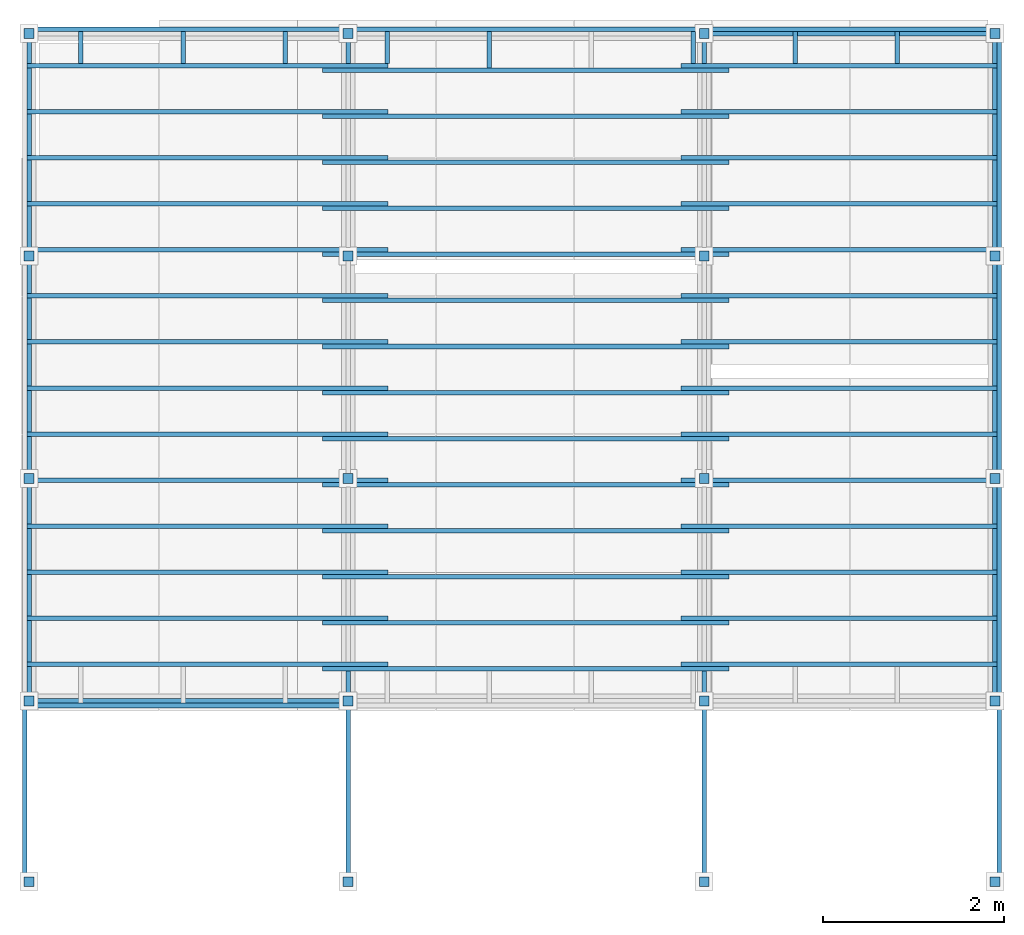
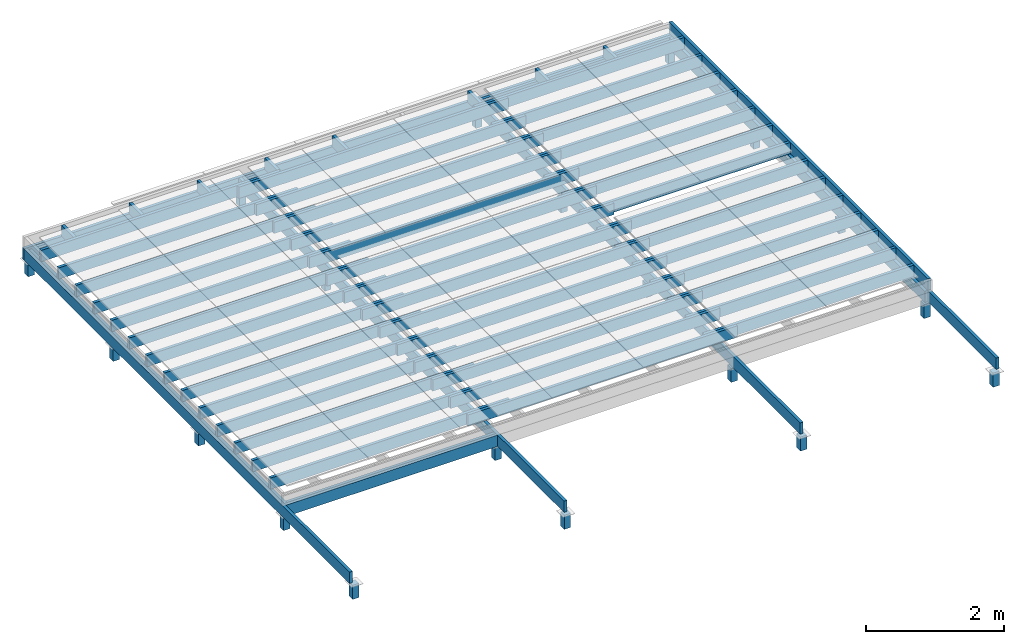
# One storey, part 1 of 5: 61 beams, 20 columns, 20 elements without a shape of their own.
"""IFC4 building model written with IfcOpenShell, lengths in millimetres."""

from ifc_helpers import new_model, si_unit, derived_unit, frame, origin_with_axes, place, context, subcontext, project, spatial, line, indexed_curve, outline, extrude, polygons, source, transform, mapped, material, type_object, element, aggregate, save


model = new_model("IFC4")

# Units and contexts
model_context = context("Model", 3, precision=1e-06, world=origin_with_axes())
body_context = subcontext(model_context, "Body", "Model", "MODEL_VIEW")
ifc_project = project(units=[si_unit("LENGTHUNIT", "METRE", prefix="MILLI"), si_unit("AREAUNIT", "SQUARE_METRE"), si_unit("VOLUMEUNIT", "CUBIC_METRE"), si_unit("MASSUNIT", "GRAM", prefix="KILO"), si_unit("ELECTRICVOLTAGEUNIT", "VOLT", prefix="KILO"), si_unit("THERMODYNAMICTEMPERATUREUNIT", "DEGREE_CELSIUS"), si_unit("PRESSUREUNIT", "PASCAL", prefix="MEGA"), si_unit("PLANEANGLEUNIT", "RADIAN"), derived_unit("THERMALCONDUCTANCEUNIT", [(si_unit("POWERUNIT", "WATT"), 1), (si_unit("LENGTHUNIT", "METRE"), -1), (si_unit("THERMODYNAMICTEMPERATUREUNIT", "KELVIN"), -1)]), derived_unit("MASSDENSITYUNIT", [(si_unit("MASSUNIT", "GRAM", prefix="KILO"), 1), (si_unit("VOLUMEUNIT", "CUBIC_METRE"), -1)])], contexts=[model_context])

# Site, building, storey
site_placement = place(None, origin_with_axes())
site = spatial("IfcSite", under=ifc_project, at=site_placement, CompositionType="ELEMENT")
building_placement = place(site_placement, origin_with_axes())
building = spatial("IfcBuilding", under=site, at=building_placement, CompositionType="ELEMENT")
storey_placement = place(building_placement, origin_with_axes())
storey = spatial("IfcBuildingStorey", under=building, at=storey_placement, Name="Ниже 0.00", CompositionType="ELEMENT", Elevation=0.0)

# Assembly, column
assembly_1_placement = place(storey_placement, frame((75.00000000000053, 75.00000000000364, -400.0), z_axis=(0.0, 0.0, 1.0), x_axis=(1.0, 0.0, 0.0)))
assembly_1 = element("IfcElementAssembly", 1, at=assembly_1_placement, inside=storey, Name="Сборка - Свая винтовая 107", PredefinedType="NOTDEFINED")
ifc_material_1 = material(Name="Сталь")
column_type = type_object("IfcColumnType", Name="Круглая (усл) 107", PredefinedType="COLUMN")
shared_shape_1 = source(origin_with_axes(), body_context, "Body", "SweptSolid", [
    extrude(outline(indexed_curve([(-53.5, -53.5), (53.5, -53.5), (53.5, 53.5), (-53.5, 53.5)], segments=[line(1, 2), line(2, 3), line(3, 4), line(4, 1)])), origin_with_axes(), (0.0, 0.0, 1.0), 250.0),
])
column_1_placement = place(assembly_1_placement, frame((0.0, 0.0, -255.0), z_axis=(0.0, 0.0, 1.0), x_axis=(1.0, 0.0, 0.0)))
column_1 = element("IfcColumn", 2, at=column_1_placement, type_object=column_type, material=ifc_material_1, Name="Колонна - Круглая (усл) 107", context=body_context, shape_type="MappedRepresentation", body=[
    mapped(shared_shape_1, transform((0.0, 0.0, 0.0), x_axis=(1.0, 0.0, 0.0), y_axis=(0.0, 1.0, 0.0), z_axis=(0.0, 0.0, 1.0), scale=1.0)),
])
aggregate(assembly_1, [column_1])

assembly_2_placement = place(storey_placement, frame((75.00000000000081, 7465.0, -400.0), z_axis=(0.0, 0.0, 1.0), x_axis=(1.0, 0.0, 0.0)))
assembly_2 = element("IfcElementAssembly", 3, at=assembly_2_placement, inside=storey, Name="Сборка - Свая винтовая 107", PredefinedType="NOTDEFINED")
column_2_placement = place(assembly_2_placement, frame((0.0, 0.0, -255.0), z_axis=(0.0, 0.0, 1.0), x_axis=(1.0, 0.0, 0.0)))
column_2 = element("IfcColumn", 4, at=column_2_placement, type_object=column_type, material=ifc_material_1, Name="Колонна - Круглая (усл) 107", context=body_context, shape_type="MappedRepresentation", body=[
    mapped(shared_shape_1, transform((0.0, 0.0, 0.0), x_axis=(1.0, 0.0, 0.0), y_axis=(0.0, 1.0, 0.0), z_axis=(0.0, 0.0, 1.0), scale=1.0)),
])
aggregate(assembly_2, [column_2])

assembly_3_placement = place(storey_placement, frame((10770.000000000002, 75.00000000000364, -400.0), z_axis=(0.0, 0.0, 1.0), x_axis=(1.0, 0.0, 0.0)))
assembly_3 = element("IfcElementAssembly", 5, at=assembly_3_placement, inside=storey, Name="Сборка - Свая винтовая 107", PredefinedType="NOTDEFINED")
column_3_placement = place(assembly_3_placement, frame((0.0, 0.0, -255.0), z_axis=(0.0, 0.0, 1.0), x_axis=(1.0, 0.0, 0.0)))
column_3 = element("IfcColumn", 6, at=column_3_placement, type_object=column_type, material=ifc_material_1, Name="Колонна - Круглая (усл) 107", context=body_context, shape_type="MappedRepresentation", body=[
    mapped(shared_shape_1, transform((0.0, 0.0, 0.0), x_axis=(1.0, 0.0, 0.0), y_axis=(0.0, 1.0, 0.0), z_axis=(0.0, 0.0, 1.0), scale=1.0)),
])
aggregate(assembly_3, [column_3])

assembly_4_placement = place(storey_placement, frame((10770.000000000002, 7465.000000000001, -400.0), z_axis=(0.0, 0.0, 1.0), x_axis=(1.0, 0.0, 0.0)))
assembly_4 = element("IfcElementAssembly", 7, at=assembly_4_placement, inside=storey, Name="Сборка - Свая винтовая 107", PredefinedType="NOTDEFINED")
column_4_placement = place(assembly_4_placement, frame((0.0, 0.0, -255.0), z_axis=(0.0, 0.0, 1.0), x_axis=(1.0, 0.0, 0.0)))
column_4 = element("IfcColumn", 8, at=column_4_placement, type_object=column_type, material=ifc_material_1, Name="Колонна - Круглая (усл) 107", context=body_context, shape_type="MappedRepresentation", body=[
    mapped(shared_shape_1, transform((0.0, 0.0, 0.0), x_axis=(1.0, 0.0, 0.0), y_axis=(0.0, 1.0, 0.0), z_axis=(0.0, 0.0, 1.0), scale=1.0)),
])
aggregate(assembly_4, [column_4])

assembly_5_placement = place(storey_placement, frame((75.00000000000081, 5002.0, -400.0), z_axis=(0.0, 0.0, 1.0), x_axis=(1.0, 0.0, 0.0)))
assembly_5 = element("IfcElementAssembly", 9, at=assembly_5_placement, inside=storey, Name="Сборка - Свая винтовая 107", PredefinedType="NOTDEFINED")
column_5_placement = place(assembly_5_placement, frame((0.0, 0.0, -255.0), z_axis=(0.0, 0.0, 1.0), x_axis=(1.0, 0.0, 0.0)))
column_5 = element("IfcColumn", 10, at=column_5_placement, type_object=column_type, material=ifc_material_1, Name="Колонна - Круглая (усл) 107", context=body_context, shape_type="MappedRepresentation", body=[
    mapped(shared_shape_1, transform((0.0, 0.0, 0.0), x_axis=(1.0, 0.0, 0.0), y_axis=(0.0, 1.0, 0.0), z_axis=(0.0, 0.0, 1.0), scale=1.0)),
])
aggregate(assembly_5, [column_5])

assembly_6_placement = place(storey_placement, frame((75.00000000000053, 2538.0000000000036, -400.0), z_axis=(0.0, 0.0, 1.0), x_axis=(1.0, 0.0, 0.0)))
assembly_6 = element("IfcElementAssembly", 11, at=assembly_6_placement, inside=storey, Name="Сборка - Свая винтовая 107", PredefinedType="NOTDEFINED")
column_6_placement = place(assembly_6_placement, frame((0.0, 0.0, -255.0), z_axis=(0.0, 0.0, 1.0), x_axis=(1.0, 0.0, 0.0)))
column_6 = element("IfcColumn", 12, at=column_6_placement, type_object=column_type, material=ifc_material_1, Name="Колонна - Круглая (усл) 107", context=body_context, shape_type="MappedRepresentation", body=[
    mapped(shared_shape_1, transform((0.0, 0.0, 0.0), x_axis=(1.0, 0.0, 0.0), y_axis=(0.0, 1.0, 0.0), z_axis=(0.0, 0.0, 1.0), scale=1.0)),
])
aggregate(assembly_6, [column_6])

assembly_7_placement = place(storey_placement, frame((3607.5, 75.0000000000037, -400.0), z_axis=(0.0, 0.0, 1.0), x_axis=(1.0, 0.0, 0.0)))
assembly_7 = element("IfcElementAssembly", 13, at=assembly_7_placement, inside=storey, Name="Сборка - Свая винтовая 107", PredefinedType="NOTDEFINED")
column_7_placement = place(assembly_7_placement, frame((0.0, 0.0, -255.0), z_axis=(0.0, 0.0, 1.0), x_axis=(1.0, 0.0, 0.0)))
column_7 = element("IfcColumn", 14, at=column_7_placement, type_object=column_type, material=ifc_material_1, Name="Колонна - Круглая (усл) 107", context=body_context, shape_type="MappedRepresentation", body=[
    mapped(shared_shape_1, transform((0.0, 0.0, 0.0), x_axis=(1.0, 0.0, 0.0), y_axis=(0.0, 1.0, 0.0), z_axis=(0.0, 0.0, 1.0), scale=1.0)),
])
aggregate(assembly_7, [column_7])

assembly_8_placement = place(storey_placement, frame((3607.500000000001, 7465.000000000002, -400.0), z_axis=(0.0, 0.0, 1.0), x_axis=(1.0, 0.0, 0.0)))
assembly_8 = element("IfcElementAssembly", 15, at=assembly_8_placement, inside=storey, Name="Сборка - Свая винтовая 107", PredefinedType="NOTDEFINED")
column_8_placement = place(assembly_8_placement, frame((0.0, 0.0, -255.0), z_axis=(0.0, 0.0, 1.0), x_axis=(1.0, 0.0, 0.0)))
column_8 = element("IfcColumn", 16, at=column_8_placement, type_object=column_type, material=ifc_material_1, Name="Колонна - Круглая (усл) 107", context=body_context, shape_type="MappedRepresentation", body=[
    mapped(shared_shape_1, transform((0.0, 0.0, 0.0), x_axis=(1.0, 0.0, 0.0), y_axis=(0.0, 1.0, 0.0), z_axis=(0.0, 0.0, 1.0), scale=1.0)),
])
aggregate(assembly_8, [column_8])

assembly_9_placement = place(storey_placement, frame((3607.500000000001, 5002.000000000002, -400.0), z_axis=(0.0, 0.0, 1.0), x_axis=(1.0, 0.0, 0.0)))
assembly_9 = element("IfcElementAssembly", 17, at=assembly_9_placement, inside=storey, Name="Сборка - Свая винтовая 107", PredefinedType="NOTDEFINED")
column_9_placement = place(assembly_9_placement, frame((0.0, 0.0, -255.0), z_axis=(0.0, 0.0, 1.0), x_axis=(1.0, 0.0, 0.0)))
column_9 = element("IfcColumn", 18, at=column_9_placement, type_object=column_type, material=ifc_material_1, Name="Колонна - Круглая (усл) 107", context=body_context, shape_type="MappedRepresentation", body=[
    mapped(shared_shape_1, transform((0.0, 0.0, 0.0), x_axis=(1.0, 0.0, 0.0), y_axis=(0.0, 1.0, 0.0), z_axis=(0.0, 0.0, 1.0), scale=1.0)),
])
aggregate(assembly_9, [column_9])

assembly_10_placement = place(storey_placement, frame((3607.5, 2538.000000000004, -400.0), z_axis=(0.0, 0.0, 1.0), x_axis=(1.0, 0.0, 0.0)))
assembly_10 = element("IfcElementAssembly", 19, at=assembly_10_placement, inside=storey, Name="Сборка - Свая винтовая 107", PredefinedType="NOTDEFINED")
column_10_placement = place(assembly_10_placement, frame((0.0, 0.0, -255.0), z_axis=(0.0, 0.0, 1.0), x_axis=(1.0, 0.0, 0.0)))
column_10 = element("IfcColumn", 20, at=column_10_placement, type_object=column_type, material=ifc_material_1, Name="Колонна - Круглая (усл) 107", context=body_context, shape_type="MappedRepresentation", body=[
    mapped(shared_shape_1, transform((0.0, 0.0, 0.0), x_axis=(1.0, 0.0, 0.0), y_axis=(0.0, 1.0, 0.0), z_axis=(0.0, 0.0, 1.0), scale=1.0)),
])
aggregate(assembly_10, [column_10])

assembly_11_placement = place(storey_placement, frame((7550.0000000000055, 75.0000000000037, -400.0), z_axis=(0.0, 0.0, 1.0), x_axis=(1.0, 0.0, 0.0)))
assembly_11 = element("IfcElementAssembly", 21, at=assembly_11_placement, inside=storey, Name="Сборка - Свая винтовая 107", PredefinedType="NOTDEFINED")
column_11_placement = place(assembly_11_placement, frame((0.0, 0.0, -255.0), z_axis=(0.0, 0.0, 1.0), x_axis=(1.0, 0.0, 0.0)))
column_11 = element("IfcColumn", 22, at=column_11_placement, type_object=column_type, material=ifc_material_1, Name="Колонна - Круглая (усл) 107", context=body_context, shape_type="MappedRepresentation", body=[
    mapped(shared_shape_1, transform((0.0, 0.0, 0.0), x_axis=(1.0, 0.0, 0.0), y_axis=(0.0, 1.0, 0.0), z_axis=(0.0, 0.0, 1.0), scale=1.0)),
])
aggregate(assembly_11, [column_11])

assembly_12_placement = place(storey_placement, frame((7550.000000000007, 7465.0, -400.0), z_axis=(0.0, 0.0, 1.0), x_axis=(1.0, 0.0, 0.0)))
assembly_12 = element("IfcElementAssembly", 23, at=assembly_12_placement, inside=storey, Name="Сборка - Свая винтовая 107", PredefinedType="NOTDEFINED")
column_12_placement = place(assembly_12_placement, frame((0.0, 0.0, -255.0), z_axis=(0.0, 0.0, 1.0), x_axis=(1.0, 0.0, 0.0)))
column_12 = element("IfcColumn", 24, at=column_12_placement, type_object=column_type, material=ifc_material_1, Name="Колонна - Круглая (усл) 107", context=body_context, shape_type="MappedRepresentation", body=[
    mapped(shared_shape_1, transform((0.0, 0.0, 0.0), x_axis=(1.0, 0.0, 0.0), y_axis=(0.0, 1.0, 0.0), z_axis=(0.0, 0.0, 1.0), scale=1.0)),
])
aggregate(assembly_12, [column_12])

assembly_13_placement = place(storey_placement, frame((7550.000000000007, 5002.0, -400.0), z_axis=(0.0, 0.0, 1.0), x_axis=(1.0, 0.0, 0.0)))
assembly_13 = element("IfcElementAssembly", 25, at=assembly_13_placement, inside=storey, Name="Сборка - Свая винтовая 107", PredefinedType="NOTDEFINED")
column_13_placement = place(assembly_13_placement, frame((0.0, 0.0, -255.0), z_axis=(0.0, 0.0, 1.0), x_axis=(1.0, 0.0, 0.0)))
column_13 = element("IfcColumn", 26, at=column_13_placement, type_object=column_type, material=ifc_material_1, Name="Колонна - Круглая (усл) 107", context=body_context, shape_type="MappedRepresentation", body=[
    mapped(shared_shape_1, transform((0.0, 0.0, 0.0), x_axis=(1.0, 0.0, 0.0), y_axis=(0.0, 1.0, 0.0), z_axis=(0.0, 0.0, 1.0), scale=1.0)),
])
aggregate(assembly_13, [column_13])

assembly_14_placement = place(storey_placement, frame((7550.0000000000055, 2538.0000000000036, -400.0), z_axis=(0.0, 0.0, 1.0), x_axis=(1.0, 0.0, 0.0)))
assembly_14 = element("IfcElementAssembly", 27, at=assembly_14_placement, inside=storey, Name="Сборка - Свая винтовая 107", PredefinedType="NOTDEFINED")
column_14_placement = place(assembly_14_placement, frame((0.0, 0.0, -255.0), z_axis=(0.0, 0.0, 1.0), x_axis=(1.0, 0.0, 0.0)))
column_14 = element("IfcColumn", 28, at=column_14_placement, type_object=column_type, material=ifc_material_1, Name="Колонна - Круглая (усл) 107", context=body_context, shape_type="MappedRepresentation", body=[
    mapped(shared_shape_1, transform((0.0, 0.0, 0.0), x_axis=(1.0, 0.0, 0.0), y_axis=(0.0, 1.0, 0.0), z_axis=(0.0, 0.0, 1.0), scale=1.0)),
])
aggregate(assembly_14, [column_14])

assembly_15_placement = place(storey_placement, frame((10770.000000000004, 5001.999999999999, -400.0), z_axis=(0.0, 0.0, 1.0), x_axis=(1.0, 0.0, 0.0)))
assembly_15 = element("IfcElementAssembly", 29, at=assembly_15_placement, inside=storey, Name="Сборка - Свая винтовая 107", PredefinedType="NOTDEFINED")
column_15_placement = place(assembly_15_placement, frame((0.0, 0.0, -255.0), z_axis=(0.0, 0.0, 1.0), x_axis=(1.0, 0.0, 0.0)))
column_15 = element("IfcColumn", 30, at=column_15_placement, type_object=column_type, material=ifc_material_1, Name="Колонна - Круглая (усл) 107", context=body_context, shape_type="MappedRepresentation", body=[
    mapped(shared_shape_1, transform((0.0, 0.0, 0.0), x_axis=(1.0, 0.0, 0.0), y_axis=(0.0, 1.0, 0.0), z_axis=(0.0, 0.0, 1.0), scale=1.0)),
])
aggregate(assembly_15, [column_15])

assembly_16_placement = place(storey_placement, frame((10770.000000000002, 2538.000000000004, -400.0), z_axis=(0.0, 0.0, 1.0), x_axis=(1.0, 0.0, 0.0)))
assembly_16 = element("IfcElementAssembly", 31, at=assembly_16_placement, inside=storey, Name="Сборка - Свая винтовая 107", PredefinedType="NOTDEFINED")
column_16_placement = place(assembly_16_placement, frame((0.0, 0.0, -255.0), z_axis=(0.0, 0.0, 1.0), x_axis=(1.0, 0.0, 0.0)))
column_16 = element("IfcColumn", 32, at=column_16_placement, type_object=column_type, material=ifc_material_1, Name="Колонна - Круглая (усл) 107", context=body_context, shape_type="MappedRepresentation", body=[
    mapped(shared_shape_1, transform((0.0, 0.0, 0.0), x_axis=(1.0, 0.0, 0.0), y_axis=(0.0, 1.0, 0.0), z_axis=(0.0, 0.0, 1.0), scale=1.0)),
])
aggregate(assembly_16, [column_16])

assembly_17_placement = place(storey_placement, frame((75.00000000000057, -1925.0000000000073, -400.0), z_axis=(0.0, 0.0, 1.0), x_axis=(1.0, 0.0, 0.0)))
assembly_17 = element("IfcElementAssembly", 33, at=assembly_17_placement, inside=storey, Name="Сборка - Свая винтовая 107", PredefinedType="NOTDEFINED")
column_17_placement = place(assembly_17_placement, frame((0.0, 0.0, -255.0), z_axis=(0.0, 0.0, 1.0), x_axis=(1.0, 0.0, 0.0)))
column_17 = element("IfcColumn", 34, at=column_17_placement, type_object=column_type, material=ifc_material_1, Name="Колонна - Круглая (усл) 107", context=body_context, shape_type="MappedRepresentation", body=[
    mapped(shared_shape_1, transform((0.0, 0.0, 0.0), x_axis=(1.0, 0.0, 0.0), y_axis=(0.0, 1.0, 0.0), z_axis=(0.0, 0.0, 1.0), scale=1.0)),
])
aggregate(assembly_17, [column_17])

assembly_18_placement = place(storey_placement, frame((10770.000000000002, -1925.0000000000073, -400.0), z_axis=(0.0, 0.0, 1.0), x_axis=(1.0, 0.0, 0.0)))
assembly_18 = element("IfcElementAssembly", 35, at=assembly_18_placement, inside=storey, Name="Сборка - Свая винтовая 107", PredefinedType="NOTDEFINED")
column_18_placement = place(assembly_18_placement, frame((0.0, 0.0, -255.0), z_axis=(0.0, 0.0, 1.0), x_axis=(1.0, 0.0, 0.0)))
column_18 = element("IfcColumn", 36, at=column_18_placement, type_object=column_type, material=ifc_material_1, Name="Колонна - Круглая (усл) 107", context=body_context, shape_type="MappedRepresentation", body=[
    mapped(shared_shape_1, transform((0.0, 0.0, 0.0), x_axis=(1.0, 0.0, 0.0), y_axis=(0.0, 1.0, 0.0), z_axis=(0.0, 0.0, 1.0), scale=1.0)),
])
aggregate(assembly_18, [column_18])

assembly_19_placement = place(storey_placement, frame((3607.5, -1925.0000000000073, -400.0), z_axis=(0.0, 0.0, 1.0), x_axis=(1.0, 0.0, 0.0)))
assembly_19 = element("IfcElementAssembly", 37, at=assembly_19_placement, inside=storey, Name="Сборка - Свая винтовая 107", PredefinedType="NOTDEFINED")
column_19_placement = place(assembly_19_placement, frame((0.0, 0.0, -255.0), z_axis=(0.0, 0.0, 1.0), x_axis=(1.0, 0.0, 0.0)))
column_19 = element("IfcColumn", 38, at=column_19_placement, type_object=column_type, material=ifc_material_1, Name="Колонна - Круглая (усл) 107", context=body_context, shape_type="MappedRepresentation", body=[
    mapped(shared_shape_1, transform((0.0, 0.0, 0.0), x_axis=(1.0, 0.0, 0.0), y_axis=(0.0, 1.0, 0.0), z_axis=(0.0, 0.0, 1.0), scale=1.0)),
])
aggregate(assembly_19, [column_19])

assembly_20_placement = place(storey_placement, frame((7550.0000000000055, -1925.0000000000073, -400.0), z_axis=(0.0, 0.0, 1.0), x_axis=(1.0, 0.0, 0.0)))
assembly_20 = element("IfcElementAssembly", 39, at=assembly_20_placement, inside=storey, Name="Сборка - Свая винтовая 107", PredefinedType="NOTDEFINED")
column_20_placement = place(assembly_20_placement, frame((0.0, 0.0, -255.0), z_axis=(0.0, 0.0, 1.0), x_axis=(1.0, 0.0, 0.0)))
column_20 = element("IfcColumn", 40, at=column_20_placement, type_object=column_type, material=ifc_material_1, Name="Колонна - Круглая (усл) 107", context=body_context, shape_type="MappedRepresentation", body=[
    mapped(shared_shape_1, transform((0.0, 0.0, 0.0), x_axis=(1.0, 0.0, 0.0), y_axis=(0.0, 1.0, 0.0), z_axis=(0.0, 0.0, 1.0), scale=1.0)),
])
aggregate(assembly_20, [column_20])

# Beams
ifc_material_2 = material(Name="Древесина светлая")
beam_type = type_object("IfcBeamType", Name="Доска 50х200", PredefinedType="BEAM")
shared_shape_2 = source(origin_with_axes(), body_context, "Body", "Tessellation", [
    polygons([(3582.500000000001, -6.75e-13, -400.0), (3582.500000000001, 49.999999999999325, -400.0), (3582.500000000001, 49.99999999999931, -200.0), (3582.500000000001, -6.89e-13, -200.0), (50.000000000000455, 7e-15, -400.0), (50.00000000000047, 50.00000000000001, -400.0), (50.00000000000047, 49.99999999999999, -200.0), (50.000000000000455, -7e-15, -200.0)], [[[1, 2, 3, 4]], [[5, 6, 2, 1]], [[6, 7, 3, 2]], [[7, 8, 4, 3]], [[8, 5, 1, 4]], [[5, 8, 7, 6]]], closed=True),
])
beam_1_placement = place(storey_placement, frame((50.000000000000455, 0.0, -200.0), z_axis=(-1.0, 0.0, 0.0), x_axis=(0.0, 0.0, 1.0)))
element("IfcBeam", 41, at=beam_1_placement, inside=storey, type_object=beam_type, material=ifc_material_2, Name="Балка - Доска 50х200", context=body_context, shape_type="MappedRepresentation", body=[
    mapped(shared_shape_2, transform((200.0, 3e-15, 50.000000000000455), x_axis=(0.0, 0.0, -1.0), y_axis=(0.0, 1.0, 0.0), z_axis=(1.0, 0.0, 0.0), scale=1.0)),
])
shared_shape_3 = source(origin_with_axes(), body_context, "Body", "SweptSolid", [
    extrude(outline(indexed_curve([(-200.0, -7e-15), (0.0, -7e-15), (0.0, 49.99999999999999), (-200.0, 49.99999999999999)], segments=[line(1, 2), line(2, 3), line(3, 4), line(4, 1)])), origin_with_axes(), (0.0, 0.0, -1.0), 9465.000000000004),
])
beam_2_placement = place(storey_placement, frame((10845.000000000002, -1925.0000000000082, -200.0), z_axis=(0.0, -1.0, 0.0), x_axis=(0.0, 0.0, 1.0)))
element("IfcBeam", 42, at=beam_2_placement, inside=storey, type_object=beam_type, material=ifc_material_2, Name="Балка - Доска 50х200", context=body_context, shape_type="MappedRepresentation", body=[
    mapped(shared_shape_3, transform((0.0, 0.0, 0.0), x_axis=(1.0, 0.0, 0.0), y_axis=(0.0, 1.0, 0.0), z_axis=(0.0, 0.0, 1.0), scale=1.0)),
])
shared_shape_4 = source(origin_with_axes(), body_context, "Body", "SweptSolid", [
    extrude(outline(indexed_curve([(-200.0, -7e-15), (0.0, -7e-15), (0.0, 49.99999999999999), (-200.0, 49.99999999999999)], segments=[line(1, 2), line(2, 3), line(3, 4), line(4, 1)])), origin_with_axes(), (0.0, 0.0, -1.0), 10795.000000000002),
])
beam_3_placement = place(storey_placement, frame((10795.000000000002, 7539.999999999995, -200.0), z_axis=(1.0, 0.0, 0.0), x_axis=(0.0, 0.0, 1.0)))
element("IfcBeam", 43, at=beam_3_placement, inside=storey, type_object=beam_type, material=ifc_material_2, Name="Балка - Доска 50х200", context=body_context, shape_type="MappedRepresentation", body=[
    mapped(shared_shape_4, transform((0.0, 0.0, 0.0), x_axis=(1.0, 0.0, 0.0), y_axis=(0.0, 1.0, 0.0), z_axis=(0.0, 0.0, 1.0), scale=1.0)),
])
shared_shape_5 = source(origin_with_axes(), body_context, "Body", "SweptSolid", [
    extrude(outline(indexed_curve([(-200.0, -7e-15), (0.0, -7e-15), (0.0, 49.99999999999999), (-200.0, 49.99999999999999)], segments=[line(1, 2), line(2, 3), line(3, 4), line(4, 1)])), origin_with_axes(), (0.0, 0.0, -1.0), 9415.000000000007),
])
beam_4_placement = place(storey_placement, frame((0.0, 7489.999999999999, -200.0), z_axis=(0.0, 1.0, 0.0), x_axis=(0.0, 0.0, 1.0)))
element("IfcBeam", 44, at=beam_4_placement, inside=storey, type_object=beam_type, material=ifc_material_2, Name="Балка - Доска 50х200", context=body_context, shape_type="MappedRepresentation", body=[
    mapped(shared_shape_5, transform((0.0, 0.0, 0.0), x_axis=(1.0, 0.0, 0.0), y_axis=(0.0, 1.0, 0.0), z_axis=(0.0, 0.0, 1.0), scale=1.0)),
])
shared_shape_6 = source(origin_with_axes(), body_context, "Body", "Tessellation", [
    polygons([(-7e-15, -200.0, 0.0), (-50.00000000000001, -200.0, 0.0), (-50.00000000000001, -200.0, -9415.000000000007), (-7e-15, -200.0, -9415.000000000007), (-49.99999999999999, 0.0, 0.0), (-49.99999999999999, 0.0, -9415.000000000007), (7e-15, 0.0, 0.0), (7e-15, 0.0, -9415.000000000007)], [[[1, 2, 3, 4]], [[2, 5, 6, 3]], [[5, 7, 8, 6]], [[7, 1, 4, 8]], [[4, 3, 6, 8]], [[1, 7, 5, 2]]], closed=True),
])
for number, where, z_axis, x_axis in (
    (45, (3582.500000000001, 7489.999999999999, -200.0), (0.0, 1.0, 0.0), (0.0, 0.0, 1.0)),
    (46, (7525.0000000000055, 7489.999999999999, -200.0), (0.0, 1.0, 0.0), (0.0, 0.0, 1.0)),
):
    element("IfcBeam", number, at=place(storey_placement, frame(where, z_axis=z_axis, x_axis=x_axis)), inside=storey, type_object=beam_type, material=ifc_material_2, Name="Балка - Доска 50х200", context=body_context, shape_type="MappedRepresentation", body=[
        mapped(shared_shape_6, transform((0.0, 0.0, 0.0), x_axis=(0.0, -1.0, 0.0), y_axis=(1.0, 0.0, 0.0), z_axis=(0.0, 0.0, 1.0), scale=1.0)),
    ])
shared_shape_7 = source(origin_with_axes(), body_context, "Body", "Tessellation", [
    polygons([(3582.500000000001, 100.00000000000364, -400.0), (3582.500000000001, 100.00000000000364, -200.0), (3582.500000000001, 50.000000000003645, -200.0), (3582.500000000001, 50.000000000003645, -400.0), (100.00000000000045, 100.00000000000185, -400.0), (100.00000000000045, 100.00000000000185, -200.0), (100.00000000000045, 50.000000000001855, -200.0), (100.00000000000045, 50.000000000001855, -400.0)], [[[1, 2, 3, 4]], [[2, 1, 5, 6]], [[3, 2, 6, 7]], [[4, 3, 7, 8]], [[1, 4, 8, 5]], [[5, 8, 7, 6]]], closed=True),
])
beam_5_placement = place(storey_placement, frame((3582.500000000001, 100.00000000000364, -200.0), z_axis=(1.0, 1e-15, 0.0), x_axis=(0.0, 0.0, 1.0)))
element("IfcBeam", 47, at=beam_5_placement, inside=storey, type_object=beam_type, material=ifc_material_2, Name="Балка - Доска 50х200", context=body_context, shape_type="MappedRepresentation", body=[
    mapped(shared_shape_7, transform((200.0, 100.0000000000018, -3582.500000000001), x_axis=(0.0, 1e-15, 1.0), y_axis=(0.0, -1.0, 1e-15), z_axis=(1.0, 0.0, 0.0), scale=1.0)),
])
shared_shape_8 = source(origin_with_axes(), body_context, "Body", "SweptSolid", [
    extrude(outline(indexed_curve([(-200.0, -7e-15), (0.0, -7e-15), (0.0, 49.99999999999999), (-200.0, 49.99999999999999)], segments=[line(1, 2), line(2, 3), line(3, 4), line(4, 1)])), origin_with_axes(), (0.0, 0.0, -1.0), 3219.9999999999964),
])
beam_6_placement = place(storey_placement, frame((10795.000000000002, 7489.999999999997, -200.0), z_axis=(1.0, 0.0, 0.0), x_axis=(0.0, 0.0, 1.0)))
element("IfcBeam", 48, at=beam_6_placement, inside=storey, type_object=beam_type, material=ifc_material_2, Name="Балка - Доска 50х200", context=body_context, shape_type="MappedRepresentation", body=[
    mapped(shared_shape_8, transform((0.0, 0.0, 0.0), x_axis=(1.0, 0.0, 0.0), y_axis=(0.0, 1.0, 0.0), z_axis=(0.0, 0.0, 1.0), scale=1.0)),
])
shared_shape_9 = source(origin_with_axes(), body_context, "Body", "Tessellation", [
    polygons([(0.0, -200.0, 0.0), (-50.0, -200.0, 0.0), (-50.0, -200.0, -7389.999999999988), (0.0, -200.0, -7389.999999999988), (-50.0, 0.0, 0.0), (-50.0, 0.0, -7389.999999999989), (0.0, 0.0, 0.0), (0.0, 0.0, -7389.999999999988)], [[[1, 2, 3, 4]], [[2, 5, 6, 3]], [[5, 7, 8, 6]], [[7, 1, 4, 8]], [[4, 3, 6, 8]], [[1, 7, 5, 2]]], closed=True),
])
for number, where, z_axis, x_axis in (
    (49, (10795.000000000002, 50.000000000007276, -200.0), (0.0, -1.0, 0.0), (0.0, 0.0, 1.0)),
    (50, (99.99999999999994, 50.0, -200.0), (0.0, -1.0, 0.0), (0.0, 0.0, 1.0)),
):
    element("IfcBeam", number, at=place(storey_placement, frame(where, z_axis=z_axis, x_axis=x_axis)), inside=storey, type_object=beam_type, material=ifc_material_2, Name="Балка - Доска 50х200", context=body_context, shape_type="MappedRepresentation", body=[
        mapped(shared_shape_9, transform((0.0, 0.0, 0.0), x_axis=(0.0, -1.0, 0.0), y_axis=(1.0, 0.0, 0.0), z_axis=(0.0, 0.0, 1.0), scale=1.0)),
    ])
ifc_material_3 = material(Name="Древесина зел")
shared_shape_10 = source(origin_with_axes(), body_context, "Body", "SweptSolid", [
    extrude(outline(indexed_curve([(-200.0, -7e-15), (0.0, -7e-15), (0.0, 49.99999999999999), (-200.0, 49.99999999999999)], segments=[line(1, 2), line(2, 3), line(3, 4), line(4, 1)])), origin_with_axes(), (0.0, 0.0, -1.0), 7489.999999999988),
])
beam_7_placement = place(storey_placement, frame((10845.000000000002, 50.000000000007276, 0.0), z_axis=(0.0, -1.0, 0.0), x_axis=(0.0, 0.0, 1.0)))
element("IfcBeam", 51, at=beam_7_placement, inside=storey, type_object=beam_type, material=ifc_material_3, Name="Балка - Доска 50х200", context=body_context, shape_type="MappedRepresentation", body=[
    mapped(shared_shape_10, transform((0.0, 0.0, 0.0), x_axis=(1.0, 0.0, 0.0), y_axis=(0.0, 1.0, 0.0), z_axis=(0.0, 0.0, 1.0), scale=1.0)),
])
shared_shape_11 = source(origin_with_axes(), body_context, "Body", "Tessellation", [
    polygons([(0.0, -200.0, 0.0), (-50.0, -200.0, 0.0), (-50.0, -200.0, -3500.0), (0.0, -200.0, -3500.0), (-50.0, 2e-15, 0.0), (-50.0, 2e-15, -3500.0), (0.0, -2e-15, 0.0), (0.0, -2e-15, -3500.0)], [[[1, 2, 3, 4]], [[2, 5, 6, 3]], [[5, 7, 8, 6]], [[7, 1, 4, 8]], [[4, 3, 6, 8]], [[1, 7, 5, 2]]], closed=True),
])
for number, where, z_axis, x_axis in (
    (52, (7295.000000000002, 454.9999999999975, 0.0), (-1.0, 0.0, 0.0), (0.0, 0.0, 1.0)),
    (53, (7295.000000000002, 964.9999999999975, 0.0), (-1.0, 0.0, 0.0), (0.0, 0.0, 1.0)),
    (54, (7295.000000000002, 1474.9999999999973, 0.0), (-1.0, 0.0, 0.0), (0.0, 0.0, 1.0)),
    (55, (7295.000000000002, 1984.9999999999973, 0.0), (-1.0, 0.0, 0.0), (0.0, 0.0, 1.0)),
    (56, (7295.000000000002, 2494.9999999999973, 0.0), (-1.0, 0.0, 0.0), (0.0, 0.0, 1.0)),
    (57, (7295.000000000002, 3004.9999999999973, 0.0), (-1.0, 0.0, 0.0), (0.0, 0.0, 1.0)),
    (58, (7295.000000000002, 3514.9999999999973, 0.0), (-1.0, 0.0, 0.0), (0.0, 0.0, 1.0)),
    (59, (7295.000000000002, 4024.9999999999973, 0.0), (-1.0, 0.0, 0.0), (0.0, 0.0, 1.0)),
    (60, (7295.000000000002, 4534.999999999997, 0.0), (-1.0, 0.0, 0.0), (0.0, 0.0, 1.0)),
    (61, (7295.000000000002, 5044.999999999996, 0.0), (-1.0, 0.0, 0.0), (0.0, 0.0, 1.0)),
    (62, (7295.000000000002, 5554.999999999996, 0.0), (-1.0, 0.0, 0.0), (0.0, 0.0, 1.0)),
    (63, (7295.000000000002, 6064.999999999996, 0.0), (-1.0, 0.0, 0.0), (0.0, 0.0, 1.0)),
    (64, (7295.000000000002, 6574.999999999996, 0.0), (-1.0, 0.0, 0.0), (0.0, 0.0, 1.0)),
    (65, (7295.000000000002, 7084.999999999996, 0.0), (-1.0, 0.0, 0.0), (0.0, 0.0, 1.0)),
):
    element("IfcBeam", number, at=place(storey_placement, frame(where, z_axis=z_axis, x_axis=x_axis)), inside=storey, type_object=beam_type, material=ifc_material_3, Name="Балка - Доска 50х200", context=body_context, shape_type="MappedRepresentation", body=[
        mapped(shared_shape_11, transform((0.0, 0.0, 0.0), x_axis=(0.0, -1.0, 0.0), y_axis=(1.0, 0.0, 0.0), z_axis=(0.0, 0.0, 1.0), scale=1.0)),
    ])
shared_shape_12 = source(origin_with_axes(), body_context, "Body", "Tessellation", [
    polygons([(0.0, -200.0, 0.0), (-50.0, -200.0, 0.0), (-50.0, -200.0, -4500.0), (0.0, -200.0, -4500.0), (-50.0, 2e-15, 0.0), (-50.0, 2e-15, -4500.0), (0.0, -2e-15, 0.0), (0.0, -2e-15, -4500.0)], [[[1, 2, 3, 4]], [[2, 5, 6, 3]], [[5, 7, 8, 6]], [[7, 1, 4, 8]], [[4, 3, 6, 8]], [[1, 7, 5, 2]]], closed=True),
])
for number, where, z_axis, x_axis in (
    (66, (3323.2783513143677, 404.9999999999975, 0.0), (-1.0, 0.0, 0.0), (0.0, 0.0, 1.0)),
    (67, (3323.2783513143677, 914.9999999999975, 0.0), (-1.0, 0.0, 0.0), (0.0, 0.0, 1.0)),
    (68, (3323.2783513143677, 1424.9999999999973, 0.0), (-1.0, 0.0, 0.0), (0.0, 0.0, 1.0)),
    (69, (3323.2783513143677, 1934.9999999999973, 0.0), (-1.0, 0.0, 0.0), (0.0, 0.0, 1.0)),
    (70, (3323.2783513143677, 2444.9999999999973, 0.0), (-1.0, 0.0, 0.0), (0.0, 0.0, 1.0)),
    (71, (3323.2783513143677, 2954.9999999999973, 0.0), (-1.0, 0.0, 0.0), (0.0, 0.0, 1.0)),
    (72, (3323.2783513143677, 3464.9999999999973, 0.0), (-1.0, 0.0, 0.0), (0.0, 0.0, 1.0)),
    (73, (3323.2783513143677, 3974.9999999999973, 0.0), (-1.0, 0.0, 0.0), (0.0, 0.0, 1.0)),
    (74, (3323.2783513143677, 4484.999999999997, 0.0), (-1.0, 0.0, 0.0), (0.0, 0.0, 1.0)),
    (75, (3323.2783513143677, 4994.999999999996, 0.0), (-1.0, 0.0, 0.0), (0.0, 0.0, 1.0)),
    (76, (3323.2783513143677, 5504.999999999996, 0.0), (-1.0, 0.0, 0.0), (0.0, 0.0, 1.0)),
    (77, (3323.2783513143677, 6014.999999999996, 0.0), (-1.0, 0.0, 0.0), (0.0, 0.0, 1.0)),
    (78, (3323.2783513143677, 6524.999999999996, 0.0), (-1.0, 0.0, 0.0), (0.0, 0.0, 1.0)),
    (79, (3323.2783513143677, 7034.999999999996, 0.0), (-1.0, 0.0, 0.0), (0.0, 0.0, 1.0)),
):
    element("IfcBeam", number, at=place(storey_placement, frame(where, z_axis=z_axis, x_axis=x_axis)), inside=storey, type_object=beam_type, material=ifc_material_3, Name="Балка - Доска 50х200", context=body_context, shape_type="MappedRepresentation", body=[
        mapped(shared_shape_12, transform((0.0, 0.0, 0.0), x_axis=(0.0, -1.0, 0.0), y_axis=(1.0, 0.0, 0.0), z_axis=(0.0, 0.0, 1.0), scale=1.0)),
    ])
shared_shape_13 = source(origin_with_axes(), body_context, "Body", "Tessellation", [
    polygons([(0.0, -200.0, 0.0), (-50.0, -200.0, 0.0), (-50.0, -200.0, -3999.9999999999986), (0.0, -200.0, -3999.9999999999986), (-50.0, 2e-15, 0.0), (-50.0, 2e-15, -3999.9999999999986), (0.0, -2e-15, 0.0), (0.0, -2e-15, -3999.9999999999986)], [[[1, 2, 3, 4]], [[2, 5, 6, 3]], [[5, 7, 8, 6]], [[7, 1, 4, 8]], [[4, 3, 6, 8]], [[1, 7, 5, 2]]], closed=True),
])
for number, where, z_axis, x_axis in (
    (80, (50.0, 454.9999999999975, 0.0), (-1.0, 0.0, 0.0), (0.0, 0.0, 1.0)),
    (81, (50.0, 964.9999999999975, 0.0), (-1.0, 0.0, 0.0), (0.0, 0.0, 1.0)),
    (82, (50.0, 1474.9999999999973, 0.0), (-1.0, 0.0, 0.0), (0.0, 0.0, 1.0)),
    (83, (50.0, 1984.9999999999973, 0.0), (-1.0, 0.0, 0.0), (0.0, 0.0, 1.0)),
    (84, (50.0, 2494.9999999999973, 0.0), (-1.0, 0.0, 0.0), (0.0, 0.0, 1.0)),
    (85, (50.0, 3004.9999999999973, 0.0), (-1.0, 0.0, 0.0), (0.0, 0.0, 1.0)),
    (86, (50.0, 3514.9999999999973, 0.0), (-1.0, 0.0, 0.0), (0.0, 0.0, 1.0)),
    (87, (50.0, 4024.9999999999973, 0.0), (-1.0, 0.0, 0.0), (0.0, 0.0, 1.0)),
    (88, (50.0, 4534.999999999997, 0.0), (-1.0, 0.0, 0.0), (0.0, 0.0, 1.0)),
    (89, (50.0, 5044.999999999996, 0.0), (-1.0, 0.0, 0.0), (0.0, 0.0, 1.0)),
    (90, (50.0, 5554.999999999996, 0.0), (-1.0, 0.0, 0.0), (0.0, 0.0, 1.0)),
    (91, (50.0, 6064.999999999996, 0.0), (-1.0, 0.0, 0.0), (0.0, 0.0, 1.0)),
    (92, (50.0, 6574.999999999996, 0.0), (-1.0, 0.0, 0.0), (0.0, 0.0, 1.0)),
    (93, (50.0, 7084.999999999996, 0.0), (-1.0, 0.0, 0.0), (0.0, 0.0, 1.0)),
):
    element("IfcBeam", number, at=place(storey_placement, frame(where, z_axis=z_axis, x_axis=x_axis)), inside=storey, type_object=beam_type, material=ifc_material_3, Name="Балка - Доска 50х200", context=body_context, shape_type="MappedRepresentation", body=[
        mapped(shared_shape_13, transform((0.0, 0.0, 0.0), x_axis=(0.0, -1.0, 0.0), y_axis=(1.0, 0.0, 0.0), z_axis=(0.0, 0.0, 1.0), scale=1.0)),
    ])
shared_shape_14 = source(origin_with_axes(), body_context, "Body", "Tessellation", [
    polygons([(25.0, -200.0, 0.0), (-25.0, -200.0, 0.0), (-25.0, -200.0, -354.9999999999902), (25.0, -200.0, -354.9999999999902), (-25.0, 2e-15, 0.0), (-25.0, 2e-15, -354.9999999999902), (25.0, -2e-15, 0.0), (25.0, -2e-15, -354.9999999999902)], [[[1, 2, 3, 4]], [[2, 5, 6, 3]], [[5, 7, 8, 6]], [[7, 1, 4, 8]], [[4, 3, 6, 8]], [[1, 7, 5, 2]]], closed=True),
])
for number, where, z_axis, x_axis in (
    (94, (9690.000000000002, 7489.999999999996, 0.0), (0.0, 1.0, 0.0), (0.0, 0.0, 1.0)),
    (95, (8560.000000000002, 7489.999999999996, 0.0), (0.0, 1.0, 0.0), (0.0, 0.0, 1.0)),
    (96, (7430.000000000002, 7489.999999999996, 0.0), (0.0, 1.0, 0.0), (0.0, 0.0, 1.0)),
):
    element("IfcBeam", number, at=place(storey_placement, frame(where, z_axis=z_axis, x_axis=x_axis)), inside=storey, type_object=beam_type, material=ifc_material_3, Name="Балка - Доска 50х200", context=body_context, shape_type="MappedRepresentation", body=[
        mapped(shared_shape_14, transform((0.0, 0.0, 0.0), x_axis=(0.0, -1.0, 0.0), y_axis=(1.0, 0.0, 0.0), z_axis=(0.0, 0.0, 1.0), scale=1.0)),
    ])
shared_shape_15 = source(origin_with_axes(), body_context, "Body", "SweptSolid", [
    extrude(outline(indexed_curve([(-200.0, -25.000000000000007), (0.0, -25.000000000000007), (0.0, 24.999999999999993), (-200.0, 24.999999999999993)], segments=[line(1, 2), line(2, 3), line(3, 4), line(4, 1)])), origin_with_axes(), (0.0, 0.0, -1.0), 404.9999999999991),
])
beam_8_placement = place(storey_placement, frame((5170.000000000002, 7489.999999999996, 0.0), z_axis=(0.0, 1.0, 0.0), x_axis=(0.0, 0.0, 1.0)))
element("IfcBeam", 97, at=beam_8_placement, inside=storey, type_object=beam_type, material=ifc_material_3, Name="Балка - Доска 50х200", context=body_context, shape_type="MappedRepresentation", body=[
    mapped(shared_shape_15, transform((0.0, 0.0, 0.0), x_axis=(1.0, 0.0, 0.0), y_axis=(0.0, 1.0, 0.0), z_axis=(0.0, 0.0, 1.0), scale=1.0)),
])
shared_shape_16 = source(origin_with_axes(), body_context, "Body", "SweptSolid", [
    extrude(outline(indexed_curve([(-200.0, -25.000000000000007), (0.0, -25.000000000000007), (0.0, 24.999999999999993), (-200.0, 24.999999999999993)], segments=[line(1, 2), line(2, 3), line(3, 4), line(4, 1)])), origin_with_axes(), (0.0, 0.0, -1.0), 354.9999999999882),
])
for number, where, z_axis, x_axis in (
    (98, (4040.000000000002, 7489.999999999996, 0.0), (0.0, 1.0, 0.0), (0.0, 0.0, 1.0)),
    (99, (2910.000000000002, 7489.999999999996, 0.0), (0.0, 1.0, 0.0), (0.0, 0.0, 1.0)),
    (100, (1780.0000000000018, 7489.999999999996, 0.0), (0.0, 1.0, 0.0), (0.0, 0.0, 1.0)),
    (101, (650.0000000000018, 7489.999999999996, 0.0), (0.0, 1.0, 0.0), (0.0, 0.0, 1.0)),
):
    element("IfcBeam", number, at=place(storey_placement, frame(where, z_axis=z_axis, x_axis=x_axis)), inside=storey, type_object=beam_type, material=ifc_material_3, Name="Балка - Доска 50х200", context=body_context, shape_type="MappedRepresentation", body=[
        mapped(shared_shape_16, transform((0.0, 0.0, 0.0), x_axis=(1.0, 0.0, 0.0), y_axis=(0.0, 1.0, 0.0), z_axis=(0.0, 0.0, 1.0), scale=1.0)),
    ])

save(model, "model.ifc")
